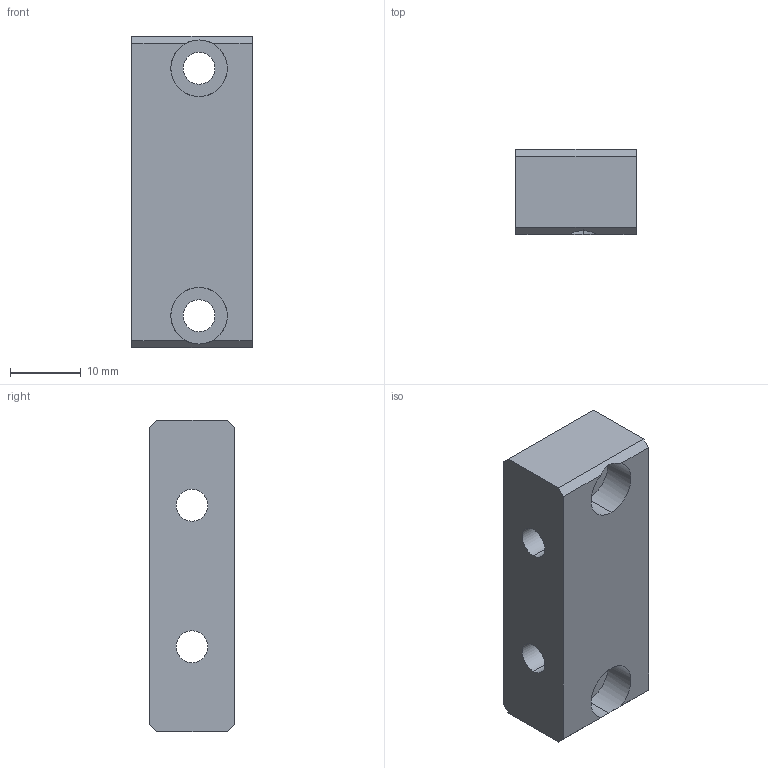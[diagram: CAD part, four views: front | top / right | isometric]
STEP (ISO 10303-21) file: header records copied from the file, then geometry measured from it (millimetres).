
FILE_DESCRIPTION (( 'STEP AP214' ), '1' );
FILE_NAME ('GZ30.15_V1气缸连接块2.STEP', '2021-06-05T09:54:40', ( '微软中国' ), ( 'Microsoft' ), 'SwSTEP 2.0', 'SolidWorks 2017', '' );
FILE_SCHEMA (( 'AUTOMOTIVE_DESIGN' ));
Length unit declared in the file: millimetre
Products named in the file (1): GZ30.15_V1气缸连接块2
Bounding box: 17 x 12 x 44 mm (x, y, z)
Volume: 7387.8 mm3; surface area: 3807.4 mm2
Topology: 1 solids, 1 shells, 30 faces, 78 edges, 52 vertices
Faces by surface type: cylinder 16, plane 14
Entity records: 984 total; most frequent: CARTESIAN_POINT 173, DIRECTION 168, ORIENTED_EDGE 156, EDGE_CURVE 78, AXIS2_PLACEMENT_3D 63, VERTEX_POINT 52, LINE 42, VECTOR 42
